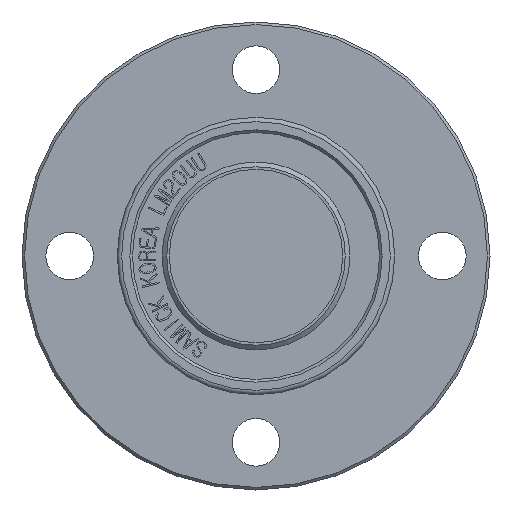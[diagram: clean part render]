
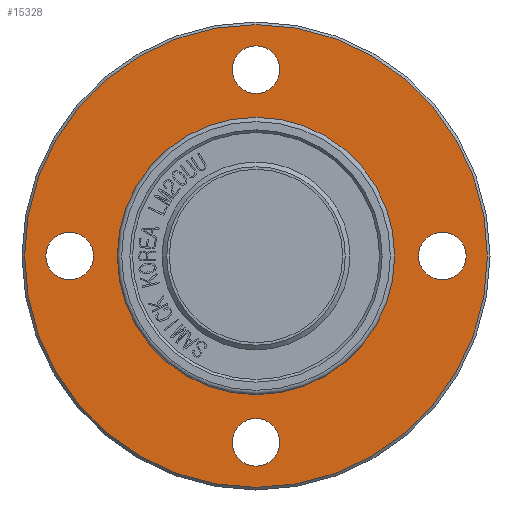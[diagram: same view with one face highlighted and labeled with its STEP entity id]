
A CAD part, front view. The second image highlights one B-rep face of the part: STEP entity #15328.
In plain terms, the highlighted planar face has unit normal (0, -1, 0).
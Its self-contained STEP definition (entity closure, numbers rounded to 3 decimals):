
#4462=FACE_BOUND('',#5385,.T.);
#4463=FACE_BOUND('',#5386,.T.);
#4464=FACE_BOUND('',#5387,.T.);
#4465=FACE_BOUND('',#5388,.T.);
#4466=FACE_BOUND('',#5389,.T.);
#4537=FACE_OUTER_BOUND('',#5384,.T.);
#5384=EDGE_LOOP('',(#10393,#10394));
#5385=EDGE_LOOP('',(#10395));
#5386=EDGE_LOOP('',(#10396));
#5387=EDGE_LOOP('',(#10397));
#5388=EDGE_LOOP('',(#10398));
#5389=EDGE_LOOP('',(#10399,#10400));
#6277=CIRCLE('',#16184,2.75);
#6283=CIRCLE('',#16193,2.75);
#6289=CIRCLE('',#16202,2.75);
#6295=CIRCLE('',#16211,2.75);
#6302=CIRCLE('',#16221,26.7);
#6303=CIRCLE('',#16222,26.7);
#6304=CIRCLE('',#16224,16.);
#6305=CIRCLE('',#16225,16.);
#6351=VERTEX_POINT('',#18291);
#6357=VERTEX_POINT('',#18308);
#6363=VERTEX_POINT('',#18325);
#6369=VERTEX_POINT('',#18342);
#6376=VERTEX_POINT('',#18362);
#6377=VERTEX_POINT('',#18363);
#6378=VERTEX_POINT('',#18368);
#6379=VERTEX_POINT('',#18369);
#7949=EDGE_CURVE('',#6351,#6351,#6277,.T.);
#7957=EDGE_CURVE('',#6357,#6357,#6283,.T.);
#7965=EDGE_CURVE('',#6363,#6363,#6289,.T.);
#7973=EDGE_CURVE('',#6369,#6369,#6295,.T.);
#7982=EDGE_CURVE('',#6376,#6377,#6302,.T.);
#7983=EDGE_CURVE('',#6377,#6376,#6303,.T.);
#7985=EDGE_CURVE('',#6378,#6379,#6304,.T.);
#7986=EDGE_CURVE('',#6379,#6378,#6305,.T.);
#10393=ORIENTED_EDGE('',*,*,#7982,.T.);
#10394=ORIENTED_EDGE('',*,*,#7983,.T.);
#10395=ORIENTED_EDGE('',*,*,#7949,.T.);
#10396=ORIENTED_EDGE('',*,*,#7957,.T.);
#10397=ORIENTED_EDGE('',*,*,#7965,.T.);
#10398=ORIENTED_EDGE('',*,*,#7973,.T.);
#10399=ORIENTED_EDGE('',*,*,#7985,.F.);
#10400=ORIENTED_EDGE('',*,*,#7986,.F.);
#15089=PLANE('',#16223);
#15328=ADVANCED_FACE('',(#4537,#4462,#4463,#4464,#4465,#4466),#15089,.T.);
#16184=AXIS2_PLACEMENT_3D('',#18293,#16521,#16522);
#16193=AXIS2_PLACEMENT_3D('',#18310,#16541,#16542);
#16202=AXIS2_PLACEMENT_3D('',#18327,#16561,#16562);
#16211=AXIS2_PLACEMENT_3D('',#18344,#16581,#16582);
#16221=AXIS2_PLACEMENT_3D('',#18364,#16603,#16604);
#16222=AXIS2_PLACEMENT_3D('',#18365,#16605,#16606);
#16223=AXIS2_PLACEMENT_3D('',#18367,#16608,#16609);
#16224=AXIS2_PLACEMENT_3D('',#18370,#16610,#16611);
#16225=AXIS2_PLACEMENT_3D('',#18371,#16612,#16613);
#16521=DIRECTION('center_axis',(0.,1.,0.));
#16522=DIRECTION('ref_axis',(0.,0.,
1.));
#16541=DIRECTION('center_axis',(0.,1.,0.));
#16542=DIRECTION('ref_axis',(-1.,0.,0.));
#16561=DIRECTION('center_axis',(0.,1.,0.));
#16562=DIRECTION('ref_axis',(0.,0.,
-1.));
#16581=DIRECTION('center_axis',(0.,1.,0.));
#16582=DIRECTION('ref_axis',(1.,0.,0.));
#16603=DIRECTION('center_axis',(0.,-1.,0.));
#16604=DIRECTION('ref_axis',(1.,0.,0.));
#16605=DIRECTION('center_axis',(0.,-1.,0.));
#16606=DIRECTION('ref_axis',(1.,0.,0.));
#16608=DIRECTION('center_axis',(0.,-1.,0.));
#16609=DIRECTION('ref_axis',(0.,0.,-1.));
#16610=DIRECTION('center_axis',(0.,-1.,0.));
#16611=DIRECTION('ref_axis',(1.,0.,0.));
#16612=DIRECTION('center_axis',(0.,-1.,0.));
#16613=DIRECTION('ref_axis',(1.,0.,0.));
#18291=CARTESIAN_POINT('',(0.,14.5,18.75));
#18293=CARTESIAN_POINT('Origin',(0.,14.5,21.5));
#18308=CARTESIAN_POINT('',(-18.75,14.5,0.));
#18310=CARTESIAN_POINT('Origin',(-21.5,14.5,0.));
#18325=CARTESIAN_POINT('',(0.,14.5,-18.75));
#18327=CARTESIAN_POINT('Origin',(0.,14.5,-21.5));
#18342=CARTESIAN_POINT('',(18.75,14.5,0.));
#18344=CARTESIAN_POINT('Origin',(21.5,14.5,0.));
#18362=CARTESIAN_POINT('',(26.7,14.5,0.));
#18363=CARTESIAN_POINT('',(-26.7,14.5,0.));
#18364=CARTESIAN_POINT('Origin',(0.,14.5,0.));
#18365=CARTESIAN_POINT('Origin',(0.,14.5,0.));
#18367=CARTESIAN_POINT('Origin',(16.,14.5,0.));
#18368=CARTESIAN_POINT('',(16.,14.5,0.));
#18369=CARTESIAN_POINT('',(-16.,14.5,0.));
#18370=CARTESIAN_POINT('Origin',(0.,14.5,0.));
#18371=CARTESIAN_POINT('Origin',(0.,14.5,0.));
